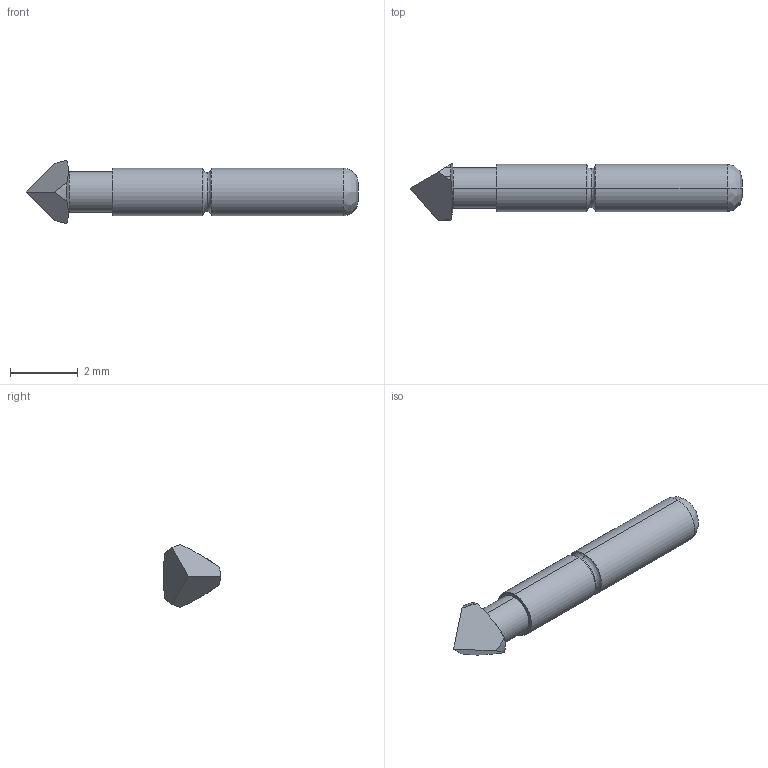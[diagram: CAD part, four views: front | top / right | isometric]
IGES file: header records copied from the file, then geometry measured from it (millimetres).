
Start section: SolidWorks IGES file using analytic representation for surfaces
Global section: file name: Z:\probe solid model mockups\Solidworks models\IGES Files\HPA-64\HPA-64-8.IGS; native system: SolidWorks 2006 by SolidWorks Corporation; preprocessor: SolidWorks 2006 by SolidWorks Corporation; author: tsakatani; date: 071220.100352; units: inch
Bounding box: 9.78 x 1.67 x 1.86 mm (x, y, z)
Surface area: 43.9 mm2 (no closed solid volume)
Topology: 0 solids, 0 shells, 22 faces, 154 edges, 154 vertices
Faces by surface type: bspline 11, revolution 11
